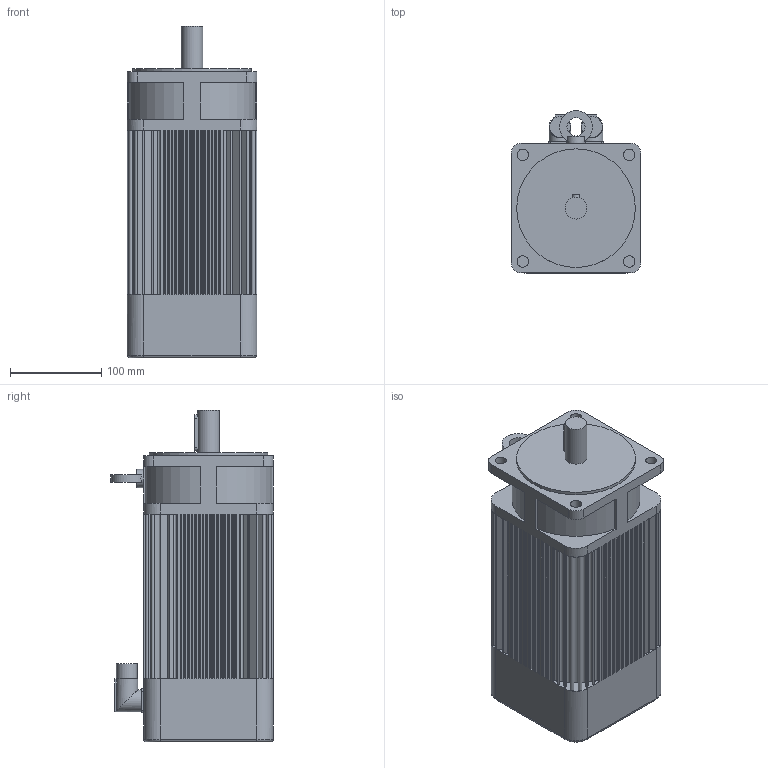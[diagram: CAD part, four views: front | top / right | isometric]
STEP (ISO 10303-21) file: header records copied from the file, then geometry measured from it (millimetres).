
FILE_DESCRIPTION(/* description */ (''),/* implementation_level */ '2;1');
FILE_NAME(/* name */ '\\Lafnas01\disegni\Archivi Lafert\3D\CAD 3D\MODELLI\Assiemi clienti\Serad\Modelli 3D Serad\B71I\Encoder\Enc With Brake\B7116Ixx6BRx2033.ipt.stp',/* time_stamp */ '2015-09-07T10:51:30+02:00',/* author */ ('Pastrello Ylenia'),/* organization */ (''),/* preprocessor_version */ 'ST-DEVELOPER v15.6',/* originating_system */ 'Autodesk Inventor 2015',/* authorisation */ '');
FILE_SCHEMA (('AUTOMOTIVE_DESIGN { 1 0 10303 214 3 1 1 }'));
Length unit declared in the file: millimetre
Products named in the file (1): B7116Ixx6BRx2033
Bounding box: 142 x 178 x 363.5 mm (x, y, z)
Volume: 5899978.1 mm3; surface area: 327141.8 mm2
Topology: 1 solids, 1 shells, 547 faces, 1378 edges, 903 vertices
Faces by surface type: plane 430, cylinder 113, torus 4
Full cylindrical faces by diameter (mm): 12.5 x4, 20 x2, 22.7 x2, 24 x3, 130 x1
Entity records: 16305 total; most frequent: CARTESIAN_POINT 2863, DIRECTION 2786, ORIENTED_EDGE 2724, EDGE_CURVE 1362, LINE 1026, VECTOR 1026, VERTEX_POINT 900, AXIS2_PLACEMENT_3D 880
